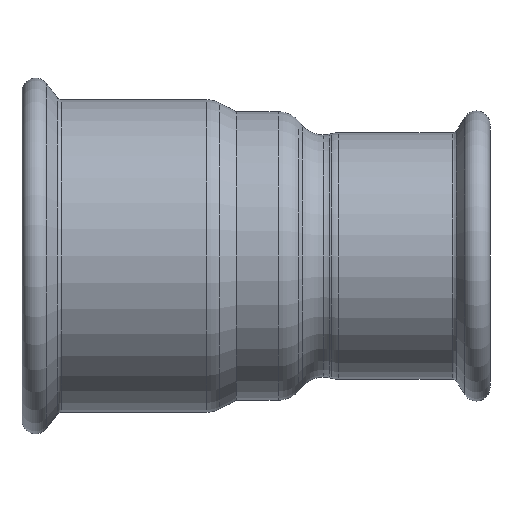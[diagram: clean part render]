
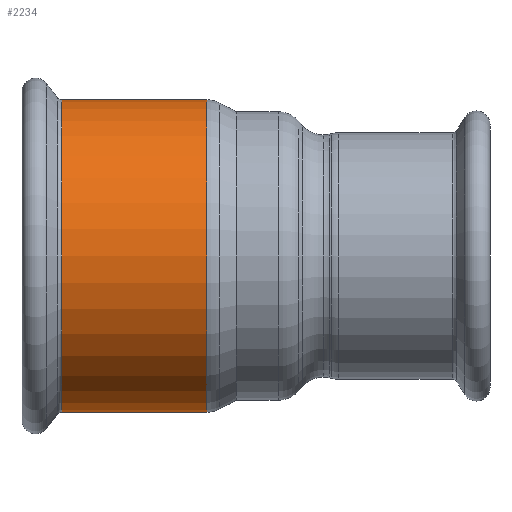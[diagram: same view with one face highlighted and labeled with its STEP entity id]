
A CAD part, front view. The second image highlights one B-rep face of the part: STEP entity #2234.
In plain terms, the highlighted cylindrical face has radius 28.7 mm (diameter 57.4 mm), a partial arc.
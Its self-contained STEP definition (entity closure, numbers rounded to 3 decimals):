
#59 = VERTEX_POINT ( 'NONE', #1911 ) ;
#87 = AXIS2_PLACEMENT_3D ( 'NONE', #2665, #807, #1976 ) ;
#175 = VECTOR ( 'NONE', #2268, 1000. ) ;
#184 = DIRECTION ( 'NONE',  ( 0., 0., -1. ) ) ;
#282 = ORIENTED_EDGE ( 'NONE', *, *, #2479, .T. ) ;
#304 = ORIENTED_EDGE ( 'NONE', *, *, #1922, .T. ) ;
#345 = VERTEX_POINT ( 'NONE', #1399 ) ;
#359 = VERTEX_POINT ( 'NONE', #1618 ) ;
#386 = LINE ( 'NONE', #1798, #175 ) ;
#407 = CARTESIAN_POINT ( 'NONE',  ( -15.133, 0., 0. ) ) ;
#459 = LINE ( 'NONE', #2325, #1001 ) ;
#525 = DIRECTION ( 'NONE',  ( 1., 0., 0. ) ) ;
#761 = AXIS2_PLACEMENT_3D ( 'NONE', #407, #1799, #184 ) ;
#807 = DIRECTION ( 'NONE',  ( -1., 0., 0. ) ) ;
#986 = FACE_OUTER_BOUND ( 'NONE', #2333, .T. ) ;
#1001 = VECTOR ( 'NONE', #1117, 1000. ) ;
#1081 = EDGE_CURVE ( 'NONE', #345, #59, #386, .T. ) ;
#1117 = DIRECTION ( 'NONE',  ( -1., 0., 0. ) ) ;
#1171 = CIRCLE ( 'NONE', #1561, 28.7 ) ;
#1399 = CARTESIAN_POINT ( 'NONE',  ( -15.133, 0., 28.7 ) ) ;
#1561 = AXIS2_PLACEMENT_3D ( 'NONE', #2655, #525, #2122 ) ;
#1618 = CARTESIAN_POINT ( 'NONE',  ( -41.808, 0., -28.7 ) ) ;
#1692 = CIRCLE ( 'NONE', #761, 28.7 ) ;
#1725 = ORIENTED_EDGE ( 'NONE', *, *, #1081, .T. ) ;
#1798 = CARTESIAN_POINT ( 'NONE',  ( -44.93, 0., 28.7 ) ) ;
#1799 = DIRECTION ( 'NONE',  ( -1., 0., 0. ) ) ;
#1864 = ORIENTED_EDGE ( 'NONE', *, *, #2090, .F. ) ;
#1884 = CARTESIAN_POINT ( 'NONE',  ( -15.133, 0., -28.7 ) ) ;
#1911 = CARTESIAN_POINT ( 'NONE',  ( -41.808, 0., 28.7 ) ) ;
#1922 = EDGE_CURVE ( 'NONE', #59, #359, #1171, .T. ) ;
#1976 = DIRECTION ( 'NONE',  ( 0., 0., 1. ) ) ;
#2090 = EDGE_CURVE ( 'NONE', #2504, #359, #459, .T. ) ;
#2122 = DIRECTION ( 'NONE',  ( 0., 0., 1. ) ) ;
#2234 = ADVANCED_FACE ( 'NONE', ( #986 ), #2863, .T. ) ;
#2268 = DIRECTION ( 'NONE',  ( -1., 0., 0. ) ) ;
#2325 = CARTESIAN_POINT ( 'NONE',  ( -44.93, 0., -28.7 ) ) ;
#2333 = EDGE_LOOP ( 'NONE', ( #1864, #282, #1725, #304 ) ) ;
#2479 = EDGE_CURVE ( 'NONE', #2504, #345, #1692, .T. ) ;
#2504 = VERTEX_POINT ( 'NONE', #1884 ) ;
#2655 = CARTESIAN_POINT ( 'NONE',  ( -41.808, 0., 0. ) ) ;
#2665 = CARTESIAN_POINT ( 'NONE',  ( -44.93, 0., 0. ) ) ;
#2863 = CYLINDRICAL_SURFACE ( 'NONE', #87, 28.7 ) ;
